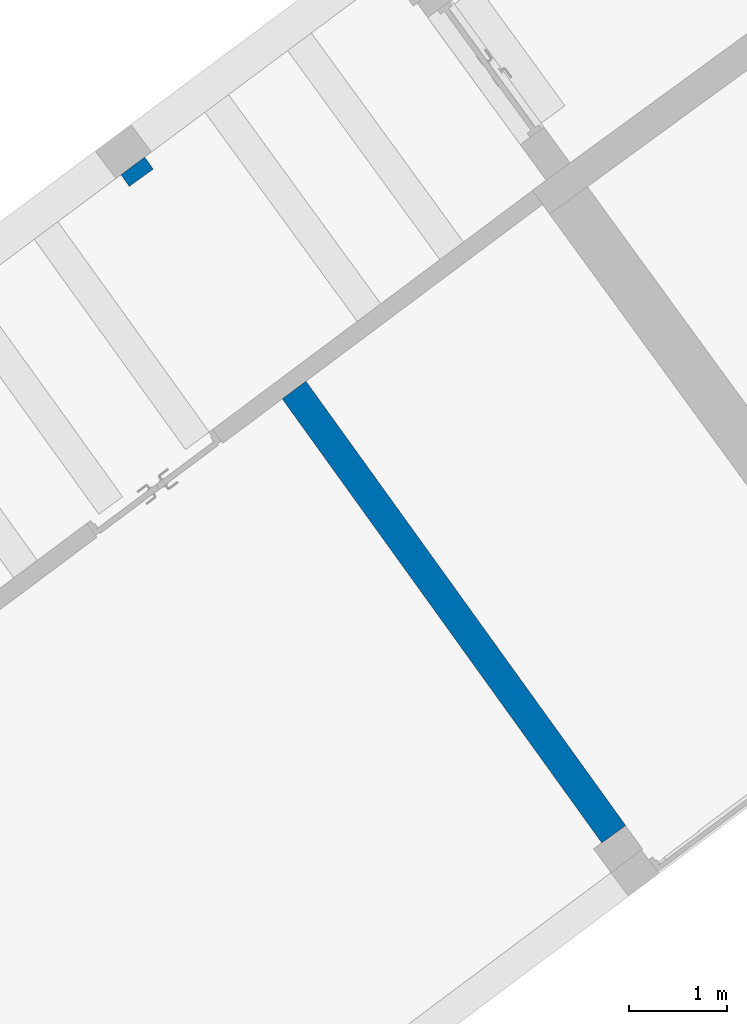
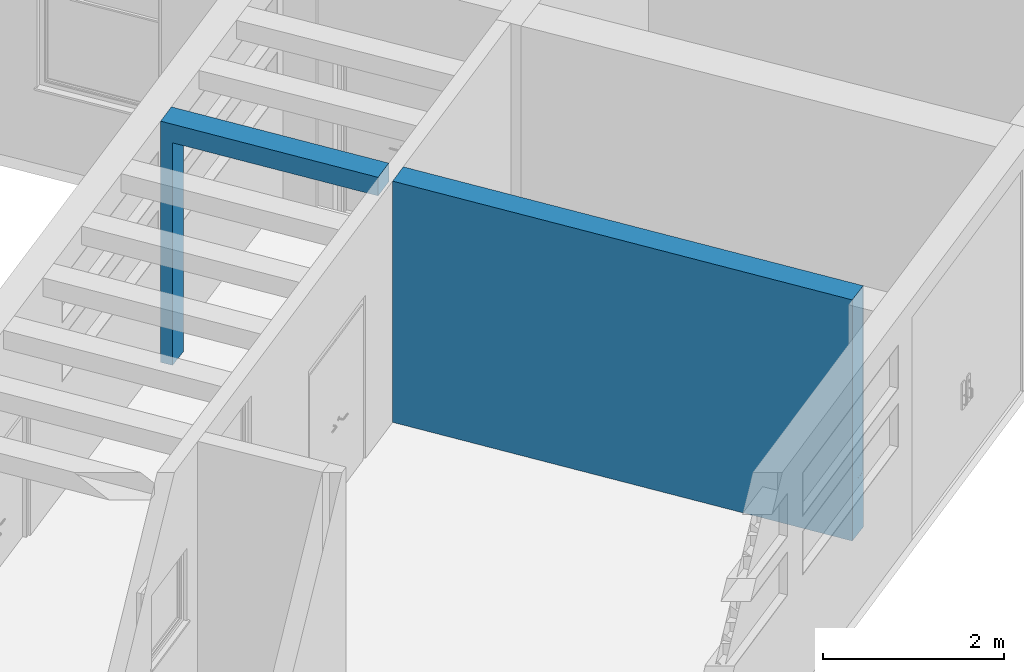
# One storey, part 149 of 157: 1 wall.
"""IFC2X3 building model written with IfcOpenShell, lengths in millimetres."""

from ifc_helpers import new_model, entity, si_unit, converted_unit, derived_unit, direction, frame, origin, place, context, subcontext, project, spatial, faceted_brep, material, layer, layer_set, type_object, element, save


model = new_model("IFC2X3")

# Units and contexts
model_context = context("Model", 3, precision=0.01, world=origin(), true_north=direction((6.123031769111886e-17, 1.0)))
body_context = subcontext(model_context, "Body", "Model", "MODEL_VIEW")
ifc_project = project(units=[si_unit("LENGTHUNIT", "METRE", prefix="MILLI"), si_unit("AREAUNIT", "SQUARE_METRE"), si_unit("VOLUMEUNIT", "CUBIC_METRE"), converted_unit("PLANEANGLEUNIT", "DEGREE", entity("IfcRatioMeasure", 0.017453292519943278), si_unit("PLANEANGLEUNIT", "RADIAN"), dimensions=[0, 0, 0, 0, 0, 0, 0]), si_unit("MASSUNIT", "GRAM", prefix="KILO"), derived_unit("MASSDENSITYUNIT", [(si_unit("MASSUNIT", "GRAM", prefix="KILO"), 1), (si_unit("LENGTHUNIT", "METRE"), -3)]), derived_unit("MOMENTOFINERTIAUNIT", [(si_unit("LENGTHUNIT", "METRE"), 4)]), si_unit("TIMEUNIT", "SECOND"), si_unit("FREQUENCYUNIT", "HERTZ"), si_unit("THERMODYNAMICTEMPERATUREUNIT", "DEGREE_CELSIUS"), derived_unit("THERMALTRANSMITTANCEUNIT", [(si_unit("MASSUNIT", "GRAM", prefix="KILO"), 1), (si_unit("THERMODYNAMICTEMPERATUREUNIT", "KELVIN"), -1), (si_unit("TIMEUNIT", "SECOND"), -3)]), derived_unit("THERMALCONDUCTANCEUNIT", [(si_unit("MASSUNIT", "GRAM", prefix="KILO"), 1), (si_unit("LENGTHUNIT", "METRE"), 1), (si_unit("THERMODYNAMICTEMPERATUREUNIT", "KELVIN"), -1), (si_unit("TIMEUNIT", "SECOND"), -3)]), derived_unit("VOLUMETRICFLOWRATEUNIT", [(si_unit("LENGTHUNIT", "METRE"), 3), (si_unit("TIMEUNIT", "SECOND"), -1)]), derived_unit("MASSFLOWRATEUNIT", [(si_unit("MASSUNIT", "GRAM", prefix="KILO"), 1), (si_unit("TIMEUNIT", "SECOND"), -1)]), derived_unit("ROTATIONALFREQUENCYUNIT", [(si_unit("TIMEUNIT", "SECOND"), -1)]), si_unit("ELECTRICCURRENTUNIT", "AMPERE"), si_unit("ELECTRICVOLTAGEUNIT", "VOLT"), si_unit("POWERUNIT", "WATT"), converted_unit("FORCEUNIT", "KIP", entity("IfcRatioMeasure", 2.088543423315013e-05), si_unit("FORCEUNIT", "NEWTON"), dimensions=[1, 1, -2, 0, 0, 0, 0]), si_unit("ILLUMINANCEUNIT", "LUX"), si_unit("LUMINOUSFLUXUNIT", "LUMEN"), si_unit("LUMINOUSINTENSITYUNIT", "CANDELA"), derived_unit("USERDEFINED", [(si_unit("MASSUNIT", "GRAM", prefix="KILO"), -1), (si_unit("LENGTHUNIT", "METRE"), -2), (si_unit("TIMEUNIT", "SECOND"), 3), (si_unit("LUMINOUSFLUXUNIT", "LUMEN"), 1)]), derived_unit("USERDEFINED", [(si_unit("MASSUNIT", "GRAM", prefix="KILO"), 1), (si_unit("LENGTHUNIT", "METRE"), 3), (si_unit("TIMEUNIT", "SECOND"), -3), (si_unit("ELECTRICCURRENTUNIT", "AMPERE"), -2)]), derived_unit("USERDEFINED", [(si_unit("LENGTHUNIT", "METRE"), 2), (si_unit("TIMEUNIT", "SECOND"), -2)]), derived_unit("SOUNDPOWERUNIT", [(si_unit("MASSUNIT", "GRAM", prefix="KILO"), 1), (si_unit("LENGTHUNIT", "METRE"), 2), (si_unit("TIMEUNIT", "SECOND"), -3)]), derived_unit("SOUNDPRESSUREUNIT", [(si_unit("MASSUNIT", "GRAM", prefix="KILO"), 1), (si_unit("LENGTHUNIT", "METRE"), -1), (si_unit("TIMEUNIT", "SECOND"), -2)]), derived_unit("LINEARVELOCITYUNIT", [(si_unit("LENGTHUNIT", "METRE"), 1), (si_unit("TIMEUNIT", "SECOND"), -1)]), si_unit("PRESSUREUNIT", "PASCAL"), derived_unit("USERDEFINED", [(si_unit("LENGTHUNIT", "METRE"), -2), (si_unit("MASSUNIT", "GRAM", prefix="KILO"), 1), (si_unit("TIMEUNIT", "SECOND"), -2)]), derived_unit("LINEARFORCEUNIT", [(si_unit("MASSUNIT", "GRAM", prefix="KILO"), 1), (si_unit("LENGTHUNIT", "METRE"), 1), (si_unit("TIMEUNIT", "SECOND"), -2), (si_unit("LENGTHUNIT", "METRE"), -1)]), derived_unit("PLANARFORCEUNIT", [(si_unit("MASSUNIT", "GRAM", prefix="KILO"), 1), (si_unit("LENGTHUNIT", "METRE"), 1), (si_unit("TIMEUNIT", "SECOND"), -2), (si_unit("LENGTHUNIT", "METRE"), -2)]), derived_unit("SPECIFICHEATCAPACITYUNIT", [(si_unit("LENGTHUNIT", "METRE"), 2), (si_unit("TIMEUNIT", "SECOND"), -2), (si_unit("THERMODYNAMICTEMPERATUREUNIT", "KELVIN"), -1)]), derived_unit("VAPORPERMEABILITYUNIT", [(si_unit("TIMEUNIT", "SECOND"), 1), (si_unit("LENGTHUNIT", "METRE"), -1)]), derived_unit("DYNAMICVISCOSITYUNIT", [(si_unit("MASSUNIT", "GRAM", prefix="KILO"), 1), (si_unit("LENGTHUNIT", "METRE"), -1), (si_unit("TIMEUNIT", "SECOND"), -1)]), derived_unit("THERMALEXPANSIONCOEFFICIENTUNIT", [(si_unit("THERMODYNAMICTEMPERATUREUNIT", "KELVIN"), -1)])], contexts=[model_context])

# Site, building, storey
site_placement = place(None, frame((0.0, 0.0, 0.0), z_axis=(0.0, 0.0, 1.0), x_axis=(0.8191520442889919, 0.5735764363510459, 0.0)))
site = spatial("IfcSite", under=ifc_project, at=site_placement, Name="Default", CompositionType="ELEMENT")
building_placement = place(site_placement, origin())
building = spatial("IfcBuilding", under=site, at=building_placement, CompositionType="ELEMENT")
storey_placement = place(building_placement, origin())
storey = spatial("IfcBuildingStorey", under=building, at=storey_placement, Name="1.EG +0.00", CompositionType="ELEMENT", Elevation=-4.331468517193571e-12)

# Wall
ifc_material = material(Name="Analytical Wall Surface_CJC")
ifc_layer = layer(ifc_material, 300.0)
ifc_layer_set = layer_set([ifc_layer], Name="Basic Wall:Wand_Innen_30")
wall_type = type_object("IfcWallType", Name="Basic Wall:Wand_Innen_30", PredefinedType="STANDARD", material=ifc_layer_set)
wall_placement = place(storey_placement, frame((-194325.46571583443, 158726.38996755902, -750.0), z_axis=(0.0, 0.0, 1.0), x_axis=(-0.012978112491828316, 0.9999157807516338, 0.0)))
element("IfcWall", 1, at=wall_placement, inside=storey, type_object=wall_type, Name="Basic Wall:Wand_Innen_30", ObjectType="Basic Wall:Wand_Innen_30", context=body_context, shape_type="Brep", body=[
    faceted_brep([(0.0, -150.0, 3250.0), (0.0, -150.0, 0.0), (5570.779929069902, -150.0, 0.0), (5570.779929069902, -150.0, 3250.0), (1.284054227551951, -147.66046469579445, 3250.0), (1.284054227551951, -147.66046469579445, 750.0), (0.0, -147.66600387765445, 750.0), (0.0, -147.6660038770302, 3250.0), (0.0, 150.0, 750.0), (0.0, 150.0, 3250.0), (5565.496273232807, 150.0, 3250.0), (0.0, 150.0, 0.0), (5565.496273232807, 150.0, 0.0)], [[[0, 1, 2, 3]], [[4, 5, 6, 7]], [[5, 8, 6]], [[5, 4, 9, 8]], [[7, 0, 3, 10, 9, 4]], [[1, 0, 7, 6, 8, 11]], [[2, 1, 11, 12]], [[2, 12, 10, 3]], [[8, 9, 10, 12, 11]]]),
    faceted_brep([(8374.74761829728, 150.0, 0.0), (8229.581685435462, 150.0, 0.0), (8229.581685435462, 150.0, 3000.0), (5740.523412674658, 150.0, 3000.0), (5740.523412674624, 150.0, 3250.0), (8374.74761829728, 150.0, 3250.0), (5745.807068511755, -150.0, 3000.0), (5745.807068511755, -150.0, 3250.0), (8379.60131613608, -150.0, 3250.0), (8379.60131613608, -150.0, 0.0), (8229.581685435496, -150.0, 0.0), (8229.581685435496, -150.0, 3000.0)], [[[0, 1, 2, 3, 4, 5]], [[6, 7, 4, 3]], [[8, 9, 0, 5]], [[9, 10, 1, 0]], [[2, 11, 6, 3]], [[10, 11, 2, 1]], [[8, 5, 4, 7]], [[10, 9, 8, 7, 6, 11]]]),
])

save(model, "model.ifc")
